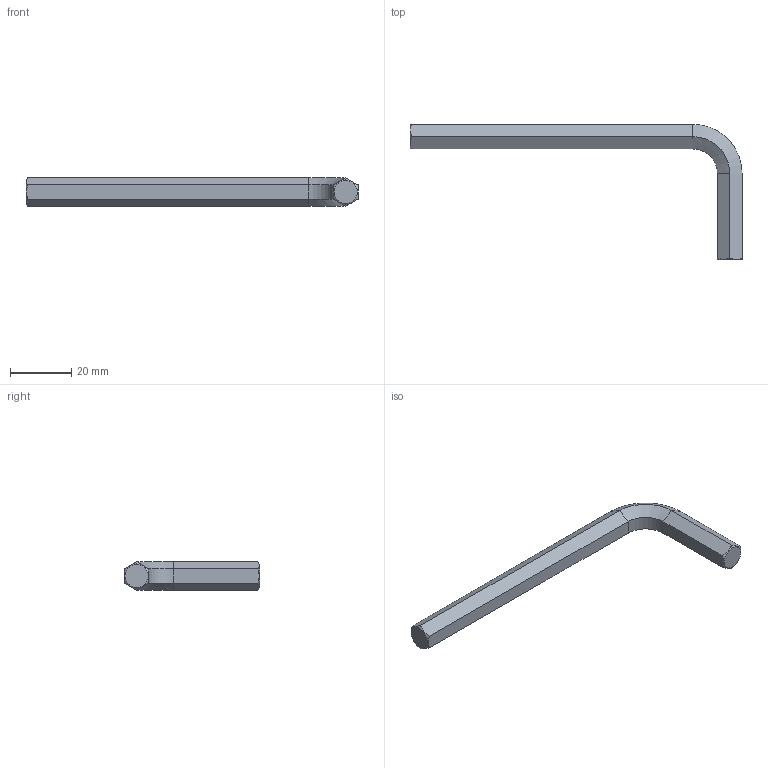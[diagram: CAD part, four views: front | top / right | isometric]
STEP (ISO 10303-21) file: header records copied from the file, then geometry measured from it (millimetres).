
FILE_DESCRIPTION (( 'STEP AP214' ), '1' );
FILE_NAME ('Hex-wrench_8.STEP', '2021-10-18T04:30:32', ( 'ASIS User' ), ( 'ASIS User' ), 'SwSTEP 2.0', 'SolidWorks 2021', '' );
FILE_SCHEMA (( 'AUTOMOTIVE_DESIGN' ));
Length unit declared in the file: millimetre
Products named in the file (1): Hex-wrench_8
Bounding box: 108 x 44 x 9.24 mm (x, y, z)
Volume: 7692.3 mm3; surface area: 3947.1 mm2
Topology: 1 solids, 1 shells, 24 faces, 50 edges, 28 vertices
Faces by surface type: plane 14, cone 8, cylinder 2
Entity records: 742 total; most frequent: CARTESIAN_POINT 219, ORIENTED_EDGE 100, DIRECTION 98, EDGE_CURVE 50, AXIS2_PLACEMENT_3D 35, VERTEX_POINT 28, VECTOR 28, LINE 28
